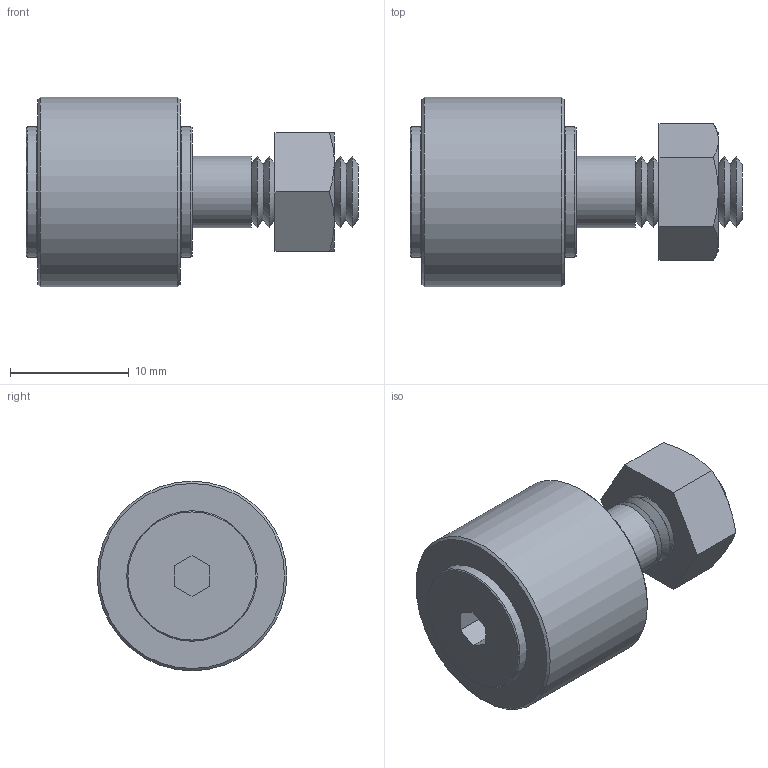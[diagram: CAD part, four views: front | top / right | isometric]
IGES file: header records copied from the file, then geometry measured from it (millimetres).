
Global section: file name:  ; native system: Kubotek KeyCreator; preprocessor: KCM Version 1.1.28; author: KeyCreator•p{ž; organization: Self; date: 20160520.070315; units: millimetre
Bounding box: 28 x 16 x 16 mm (x, y, z)
Surface area: 1625.3 mm2 (no closed solid volume)
Topology: 0 solids, 0 shells, 48 faces, 187 edges, 179 vertices
Faces by surface type: revolution 27, plane 21
